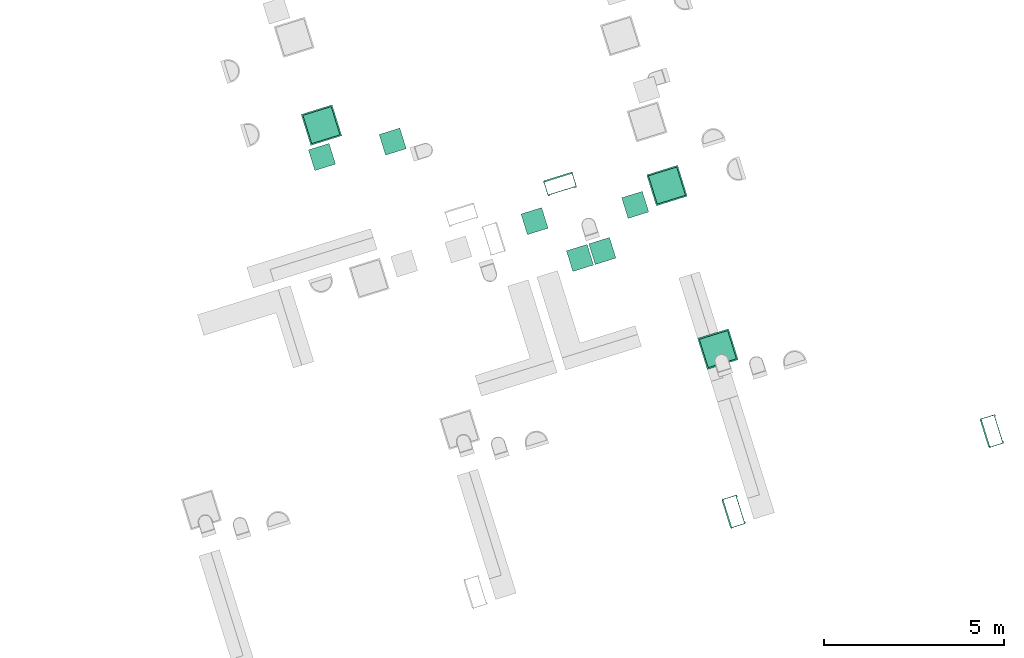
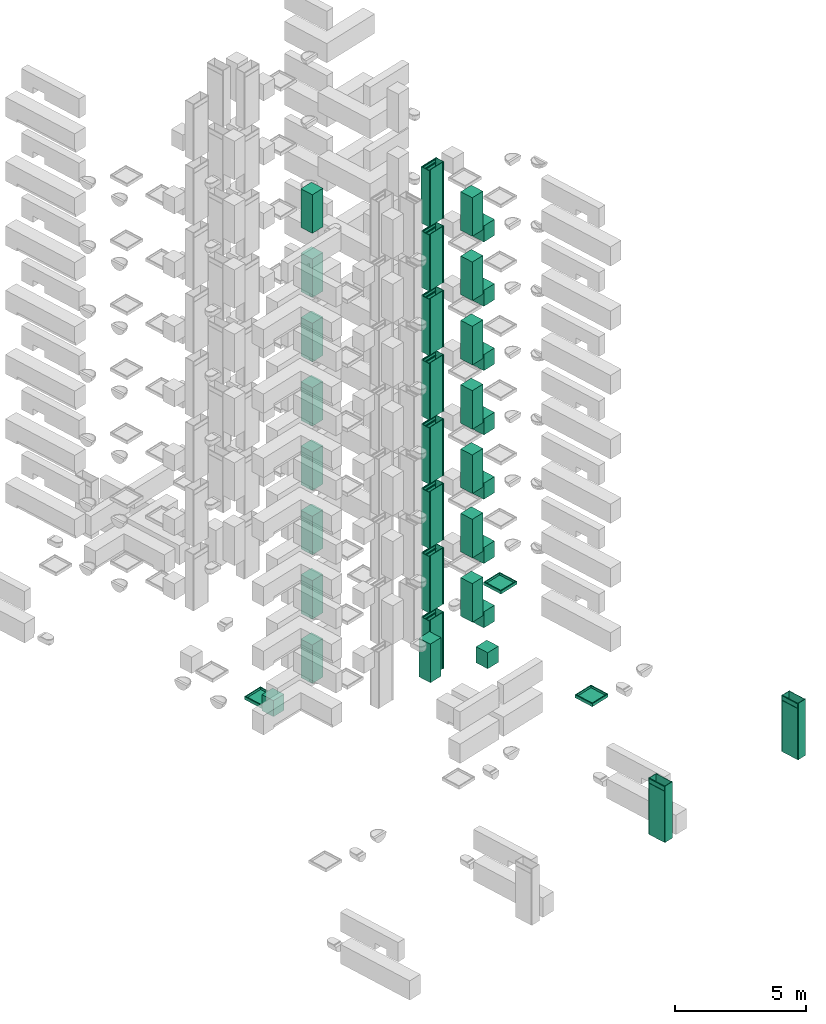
# Not in any storey, part 2 of 20: 16 boilers, 10 distribution chamber elements, 9 electric appliances, 3 sanitary terminals.
"""IFC4 model written with IfcOpenShell, lengths in metres."""

from ifc_helpers import new_model, entity, si_unit, converted_unit, direction, frame, origin, place, context, subcontext, project, indexed_curve, outline, extrude, polygons, source, transform, mapped, material, type_object, type_shapes, element, save


model = new_model("IFC4")

# Units and contexts
model_context = context("Model", 3, precision=1e-05, world=origin(), true_north=direction((6.12323399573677e-17, 1.0)))
body_context = subcontext(model_context, "Body", "Model", "MODEL_VIEW")
ifc_project = project(units=[si_unit("LENGTHUNIT", "METRE"), si_unit("AREAUNIT", "SQUARE_METRE"), si_unit("VOLUMEUNIT", "CUBIC_METRE"), converted_unit("PLANEANGLEUNIT", "DEGREE", entity("IfcPlaneAngleMeasure", 0.0174532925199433), si_unit("PLANEANGLEUNIT", "RADIAN"), dimensions=[0, 0, 0, 0, 0, 0, 0])], contexts=[model_context])

# Distribution chamber elements
ifc_material = material(Name="<Unnamed>")
distribution_chamber_element_type = type_object("IfcDistributionChamberElementType", Name="NLRS_61_GM_UN_Jonka meterkast_gen:Jonka_kast", PredefinedType="METERCHAMBER", material=ifc_material)
shared_shape_1 = source(origin(), body_context, "Body", "SweptSolid", [
    extrude(outline(indexed_curve([(-0.00925000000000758, -0.0230000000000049), (0.0177500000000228, -0.0230000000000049), (0.0177500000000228, 0.0230000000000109), (-0.00925000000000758, 0.0230000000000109), (-0.00925000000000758, 0.00899999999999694), (0.000749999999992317, 0.00899999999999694), (0.000749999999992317, -0.00900000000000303), (-0.00925000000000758, -0.00900000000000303), (-0.00925000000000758, -0.0230000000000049)], self_intersect=False)), frame((-0.408999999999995, -0.409249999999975, 0.0), z_axis=(0.0, 0.0, 1.0), x_axis=(0.0, -1.0, 0.0)), (0.0, 0.0, 1.0), 2.63),
    extrude(outline(indexed_curve([(-0.0092500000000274, -0.0230000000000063), (0.0177500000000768, -0.0230000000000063), (0.0177500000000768, 0.0229999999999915), (-0.00925000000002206, 0.0229999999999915), (-0.00925000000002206, 0.00900000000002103), (0.000749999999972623, 0.00900000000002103), (0.000749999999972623, -0.00900000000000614), (-0.0092500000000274, -0.00900000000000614), (-0.0092500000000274, -0.0230000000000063)], self_intersect=False)), frame((0.409000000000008, -0.409249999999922, 0.0), z_axis=(0.0, 0.0, 1.0), x_axis=(0.0, -1.0, 0.0)), (0.0, 0.0, 1.0), 2.63),
    extrude(outline(indexed_curve([(-0.204999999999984, -0.00899999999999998), (0.204999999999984, -0.00899999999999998), (0.204999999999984, 0.00899999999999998), (-0.204999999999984, 0.00899999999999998), (-0.204999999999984, -0.00899999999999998)], self_intersect=False)), frame((-0.408999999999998, -0.204999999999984, 0.0), z_axis=(0.0, 0.0, 1.0), x_axis=(0.0, -1.0, 0.0)), (0.0, 0.0, 1.0), 2.63),
    extrude(outline(indexed_curve([(-0.204999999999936, -0.00900000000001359), (0.204999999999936, -0.00900000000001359), (0.204999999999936, 0.00900000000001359), (-0.204999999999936, 0.00900000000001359), (-0.204999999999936, -0.00900000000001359)], self_intersect=False)), frame((0.409000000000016, -0.204999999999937, 0.0), z_axis=(0.0, 0.0, 1.0), x_axis=(0.0, -1.0, 0.0)), (0.0, 0.0, 1.0), 2.63),
    extrude(outline(indexed_curve([(-0.399999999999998, -0.00799999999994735), (0.399999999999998, -0.00799999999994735), (0.399999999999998, 0.00799999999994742), (-0.399999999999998, 0.00799999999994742), (-0.399999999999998, -0.00799999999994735)], self_intersect=False)), frame((0.0, -0.434999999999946, 0.00999999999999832), z_axis=(0.0, 0.0, 1.0), x_axis=(-1.0, 0.0, 0.0)), (0.0, 0.0, 1.0), 2.39),
    extrude(outline(indexed_curve([(-0.400000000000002, -0.00899999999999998), (0.400000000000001, -0.00899999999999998), (0.400000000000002, 0.00899999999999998), (-0.400000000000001, 0.00899999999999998), (-0.400000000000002, -0.00899999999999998)], self_intersect=False)), frame((0.0, -0.0280000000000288, 0.0), z_axis=(0.0, 0.0, 1.0), x_axis=(-1.0, 0.0, 0.0)), (0.0, 0.0, 1.0), 2.63),
    extrude(outline(indexed_curve([(-0.023, -0.0095), (0.023, -0.0095), (0.023, 0.0095), (-0.023, 0.0095), (-0.023, -0.0095)], self_intersect=False)), frame((-0.376999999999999, -0.0095, 0.0), z_axis=(0.0, 0.0, 1.0), x_axis=(-1.0, 0.0, 0.0)), (0.0, 0.0, 1.0), 2.63),
    extrude(outline(indexed_curve([(-0.022999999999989, -0.0095), (0.022999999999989, -0.0095), (0.022999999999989, 0.0095), (-0.022999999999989, 0.0095), (-0.022999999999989, -0.0095)], self_intersect=False)), frame((0.377000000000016, -0.00950000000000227, 0.0), z_axis=(0.0, 0.0, 1.0), x_axis=(-1.0, 0.0, 0.0)), (0.0, 0.0, 1.0), 2.63),
    extrude(outline(indexed_curve([(-0.399999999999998, -0.00799999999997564), (0.399999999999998, -0.00799999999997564), (0.399999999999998, 0.00799999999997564), (-0.399999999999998, 0.00799999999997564), (-0.399999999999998, -0.00799999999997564)], self_intersect=False)), frame((0.0, -0.434999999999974, 2.41800000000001), z_axis=(0.0, 0.0, 1.0), x_axis=(-1.0, 0.0, 0.0)), (0.0, 0.0, 1.0), 0.197000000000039),
    extrude(outline(indexed_curve([(-0.0230000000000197, -0.0177500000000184), (0.0230000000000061, -0.0177500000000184), (0.0230000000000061, 0.00925000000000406), (0.00900000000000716, 0.00925000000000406), (0.00900000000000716, -0.00074999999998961), (-0.00899999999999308, -0.00074999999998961), (-0.00899999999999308, 0.00925000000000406), (-0.0230000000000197, 0.00925000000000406), (-0.0230000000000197, -0.0177500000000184)], self_intersect=False)), frame((-0.386, -0.409249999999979, 2.59200000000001), z_axis=(1.0, 0.0, 0.0), x_axis=(0.0, 0.0, -1.0)), (0.0, 0.0, 1.0), 0.772),
    extrude(outline(indexed_curve([(-0.0229999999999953, -0.0177500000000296), (0.0229999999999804, -0.0177500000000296), (0.0229999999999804, 0.00925000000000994), (0.00900000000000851, 0.00925000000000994), (0.00900000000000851, -0.000749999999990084), (-0.00899999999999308, -0.000749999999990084), (-0.00899999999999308, 0.00925000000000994), (-0.0229999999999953, 0.00925000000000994), (-0.0229999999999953, -0.0177500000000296)], self_intersect=False)), frame((-0.386, -0.40924999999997, 2.40900000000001), z_axis=(1.0, 0.0, 0.0), x_axis=(0.0, 0.0, -1.0)), (0.0, 0.0, 1.0), 0.772),
    extrude(outline(indexed_curve([(-0.0230000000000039, -0.0177500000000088), (0.0230000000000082, -0.0177500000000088), (0.0230000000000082, 0.00925000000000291), (0.00899999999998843, 0.00925000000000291), (0.00899999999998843, -0.000749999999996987), (-0.00899999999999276, -0.000749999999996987), (-0.00899999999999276, 0.00925000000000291), (-0.0230000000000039, 0.00925000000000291), (-0.0230000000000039, -0.0177500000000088)], self_intersect=False)), frame((-0.386, -0.409249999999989, 0.0229999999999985), z_axis=(1.0, 0.0, 0.0), x_axis=(0.0, 0.0, -1.0)), (0.0, 0.0, 1.0), 0.772),
])
type_shapes(distribution_chamber_element_type, [shared_shape_1])
placement_1 = place(None, frame((13.1347999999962, 11.9886000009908, 0.0), z_axis=(0.0, 0.0, 1.0), x_axis=(0.954770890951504, 0.297342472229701, 0.0)))
placement_2 = place(placement_1, origin())
placement_3 = place(placement_2, frame((0.0, 0.0, 6.9)))
placement_4 = place(placement_3, origin())
distribution_chamber_element_1_placement = place(placement_4, frame((17.7570000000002, 12.0249999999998, 0.0), z_axis=(0.0, 0.0, 1.0), x_axis=(-1.0, 0.0, 0.0)))
element("IfcDistributionChamberElement", 1, at=distribution_chamber_element_1_placement, type_object=distribution_chamber_element_type, material=ifc_material, Name="NLRS_61_GM_UN_Jonka meterkast_gen:Jonka_kast", ObjectType="NLRS_61_GM_UN_Jonka meterkast_gen:Jonka_kast", PredefinedType="METERCHAMBER", context=body_context, shape_type="MappedRepresentation", body=[
    mapped(shared_shape_1, transform((0.0, 0.0, 0.0), scale=1.0)),
])
placement_5 = place(placement_2, frame((0.0, 0.0, 9.9)))
placement_6 = place(placement_5, origin())
distribution_chamber_element_2_placement = place(placement_6, frame((17.7570000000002, 12.0249999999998, 0.0), z_axis=(0.0, 0.0, 1.0), x_axis=(-1.0, 0.0, 0.0)))
element("IfcDistributionChamberElement", 2, at=distribution_chamber_element_2_placement, type_object=distribution_chamber_element_type, material=ifc_material, Name="NLRS_61_GM_UN_Jonka meterkast_gen:Jonka_kast", ObjectType="NLRS_61_GM_UN_Jonka meterkast_gen:Jonka_kast", PredefinedType="METERCHAMBER", context=body_context, shape_type="MappedRepresentation", body=[
    mapped(shared_shape_1, transform((0.0, 0.0, 0.0), scale=1.0)),
])
placement_7 = place(placement_2, frame((0.0, 0.0, 12.9)))
placement_8 = place(placement_7, origin())
distribution_chamber_element_3_placement = place(placement_8, frame((17.7570000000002, 12.0249999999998, 0.0), z_axis=(0.0, 0.0, 1.0), x_axis=(-1.0, 0.0, 0.0)))
element("IfcDistributionChamberElement", 3, at=distribution_chamber_element_3_placement, type_object=distribution_chamber_element_type, material=ifc_material, Name="NLRS_61_GM_UN_Jonka meterkast_gen:Jonka_kast", ObjectType="NLRS_61_GM_UN_Jonka meterkast_gen:Jonka_kast", PredefinedType="METERCHAMBER", context=body_context, shape_type="MappedRepresentation", body=[
    mapped(shared_shape_1, transform((0.0, 0.0, 0.0), scale=1.0)),
])
placement_9 = place(placement_2, frame((0.0, 0.0, 15.9)))
placement_10 = place(placement_9, origin())
distribution_chamber_element_4_placement = place(placement_10, frame((17.7570000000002, 12.0249999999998, 0.0), z_axis=(0.0, 0.0, 1.0), x_axis=(-1.0, 0.0, 0.0)))
element("IfcDistributionChamberElement", 4, at=distribution_chamber_element_4_placement, type_object=distribution_chamber_element_type, material=ifc_material, Name="NLRS_61_GM_UN_Jonka meterkast_gen:Jonka_kast", ObjectType="NLRS_61_GM_UN_Jonka meterkast_gen:Jonka_kast", PredefinedType="METERCHAMBER", context=body_context, shape_type="MappedRepresentation", body=[
    mapped(shared_shape_1, transform((0.0, 0.0, 0.0), scale=1.0)),
])
placement_11 = place(placement_2, frame((0.0, 0.0, 18.9)))
placement_12 = place(placement_11, origin())
distribution_chamber_element_5_placement = place(placement_12, frame((17.7570000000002, 12.0249999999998, 0.0), z_axis=(0.0, 0.0, 1.0), x_axis=(-1.0, 0.0, 0.0)))
element("IfcDistributionChamberElement", 5, at=distribution_chamber_element_5_placement, type_object=distribution_chamber_element_type, material=ifc_material, Name="NLRS_61_GM_UN_Jonka meterkast_gen:Jonka_kast", ObjectType="NLRS_61_GM_UN_Jonka meterkast_gen:Jonka_kast", PredefinedType="METERCHAMBER", context=body_context, shape_type="MappedRepresentation", body=[
    mapped(shared_shape_1, transform((0.0, 0.0, 0.0), scale=1.0)),
])
placement_13 = place(placement_2, frame((0.0, 0.0, 21.9)))
placement_14 = place(placement_13, origin())
distribution_chamber_element_6_placement = place(placement_14, frame((17.7570000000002, 12.0249999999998, 0.0), z_axis=(0.0, 0.0, 1.0), x_axis=(-1.0, 0.0, 0.0)))
element("IfcDistributionChamberElement", 6, at=distribution_chamber_element_6_placement, type_object=distribution_chamber_element_type, material=ifc_material, Name="NLRS_61_GM_UN_Jonka meterkast_gen:Jonka_kast", ObjectType="NLRS_61_GM_UN_Jonka meterkast_gen:Jonka_kast", PredefinedType="METERCHAMBER", context=body_context, shape_type="MappedRepresentation", body=[
    mapped(shared_shape_1, transform((0.0, 0.0, 0.0), scale=1.0)),
])
placement_15 = place(placement_2, frame((0.0, 0.0, 24.9)))
placement_16 = place(placement_15, origin())
distribution_chamber_element_7_placement = place(placement_16, frame((17.7570000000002, 12.0249999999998, 0.0), z_axis=(0.0, 0.0, 1.0), x_axis=(-1.0, 0.0, 0.0)))
element("IfcDistributionChamberElement", 7, at=distribution_chamber_element_7_placement, type_object=distribution_chamber_element_type, material=ifc_material, Name="NLRS_61_GM_UN_Jonka meterkast_gen:Jonka_kast", ObjectType="NLRS_61_GM_UN_Jonka meterkast_gen:Jonka_kast", PredefinedType="METERCHAMBER", context=body_context, shape_type="MappedRepresentation", body=[
    mapped(shared_shape_1, transform((0.0, 0.0, 0.0), scale=1.0)),
])
placement_17 = place(placement_2, frame((0.0, 0.0, 3.9)))
placement_18 = place(placement_17, origin())
distribution_chamber_element_8_placement = place(placement_18, frame((17.7570000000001, 12.0250000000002, 0.0), z_axis=(0.0, 0.0, 1.0), x_axis=(-1.0, 0.0, 0.0)))
element("IfcDistributionChamberElement", 8, at=distribution_chamber_element_8_placement, type_object=distribution_chamber_element_type, material=ifc_material, Name="NLRS_61_GM_UN_Jonka meterkast_gen:Jonka_kast", ObjectType="NLRS_61_GM_UN_Jonka meterkast_gen:Jonka_kast", PredefinedType="METERCHAMBER", context=body_context, shape_type="MappedRepresentation", body=[
    mapped(shared_shape_1, transform((0.0, 0.0, 0.0), scale=1.0)),
])

# Boilers
boiler_type = type_object("IfcBoilerType", Name="NLRS_51_ME_WB_warmtepomp_gen:generiek", PredefinedType="NOTDEFINED", material=ifc_material)
shared_shape_2 = source(origin(), body_context, "Body", "SweptSolid", [
    extrude(outline(indexed_curve([(-0.299999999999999, -0.300000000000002), (0.299999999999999, -0.300000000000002), (0.299999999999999, 0.300000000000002), (-0.299999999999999, 0.300000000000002), (-0.299999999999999, -0.300000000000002)], self_intersect=False)), frame((0.124999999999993, 0.350000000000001, 0.6), z_axis=(0.0, 0.0, 1.0), x_axis=(-1.0, 0.0, 0.0)), (0.0, 0.0, 1.0), 1.8),
])
type_shapes(boiler_type, [shared_shape_2])
placement_19 = place(placement_3, origin())
boiler_1_placement = place(placement_19, frame((17.8000000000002, 10.4749999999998, 0.0), z_axis=(0.0, 0.0, 1.0), x_axis=(-1.0, 0.0, 0.0)))
element("IfcBoiler", 9, at=boiler_1_placement, type_object=boiler_type, material=ifc_material, Name="NLRS_51_ME_WB_warmtepomp_gen:generiek", ObjectType="NLRS_51_ME_WB_warmtepomp_gen:generiek", PredefinedType="NOTDEFINED", context=body_context, shape_type="MappedRepresentation", body=[
    mapped(shared_shape_2, transform((0.0, 0.0, 0.0), scale=1.0)),
])
placement_20 = place(placement_13, origin())
boiler_2_placement = place(placement_20, frame((17.8000000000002, 10.4749999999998, 0.0), z_axis=(0.0, 0.0, 1.0), x_axis=(-1.0, 0.0, 0.0)))
element("IfcBoiler", 10, at=boiler_2_placement, type_object=boiler_type, material=ifc_material, Name="NLRS_51_ME_WB_warmtepomp_gen:generiek", ObjectType="NLRS_51_ME_WB_warmtepomp_gen:generiek", PredefinedType="NOTDEFINED", context=body_context, shape_type="MappedRepresentation", body=[
    mapped(shared_shape_2, transform((0.0, 0.0, 0.0), scale=1.0)),
])
placement_21 = place(placement_11, origin())
boiler_3_placement = place(placement_21, frame((17.8000000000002, 10.4749999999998, 0.0), z_axis=(0.0, 0.0, 1.0), x_axis=(-1.0, 0.0, 0.0)))
element("IfcBoiler", 11, at=boiler_3_placement, type_object=boiler_type, material=ifc_material, Name="NLRS_51_ME_WB_warmtepomp_gen:generiek", ObjectType="NLRS_51_ME_WB_warmtepomp_gen:generiek", PredefinedType="NOTDEFINED", context=body_context, shape_type="MappedRepresentation", body=[
    mapped(shared_shape_2, transform((0.0, 0.0, 0.0), scale=1.0)),
])
placement_22 = place(placement_9, origin())
boiler_4_placement = place(placement_22, frame((17.8000000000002, 10.4749999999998, 0.0), z_axis=(0.0, 0.0, 1.0), x_axis=(-1.0, 0.0, 0.0)))
element("IfcBoiler", 12, at=boiler_4_placement, type_object=boiler_type, material=ifc_material, Name="NLRS_51_ME_WB_warmtepomp_gen:generiek", ObjectType="NLRS_51_ME_WB_warmtepomp_gen:generiek", PredefinedType="NOTDEFINED", context=body_context, shape_type="MappedRepresentation", body=[
    mapped(shared_shape_2, transform((0.0, 0.0, 0.0), scale=1.0)),
])
placement_23 = place(placement_7, origin())
boiler_5_placement = place(placement_23, frame((17.8000000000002, 10.4749999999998, 0.0), z_axis=(0.0, 0.0, 1.0), x_axis=(-1.0, 0.0, 0.0)))
element("IfcBoiler", 13, at=boiler_5_placement, type_object=boiler_type, material=ifc_material, Name="NLRS_51_ME_WB_warmtepomp_gen:generiek", ObjectType="NLRS_51_ME_WB_warmtepomp_gen:generiek", PredefinedType="NOTDEFINED", context=body_context, shape_type="MappedRepresentation", body=[
    mapped(shared_shape_2, transform((0.0, 0.0, 0.0), scale=1.0)),
])
placement_24 = place(placement_5, origin())
boiler_6_placement = place(placement_24, frame((17.8000000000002, 10.4749999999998, 0.0), z_axis=(0.0, 0.0, 1.0), x_axis=(-1.0, 0.0, 0.0)))
element("IfcBoiler", 14, at=boiler_6_placement, type_object=boiler_type, material=ifc_material, Name="NLRS_51_ME_WB_warmtepomp_gen:generiek", ObjectType="NLRS_51_ME_WB_warmtepomp_gen:generiek", PredefinedType="NOTDEFINED", context=body_context, shape_type="MappedRepresentation", body=[
    mapped(shared_shape_2, transform((0.0, 0.0, 0.0), scale=1.0)),
])
placement_25 = place(placement_15, origin())
boiler_7_placement = place(placement_25, frame((17.8000000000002, 10.4749999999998, 0.0), z_axis=(0.0, 0.0, 1.0), x_axis=(-1.0, 0.0, 0.0)))
element("IfcBoiler", 15, at=boiler_7_placement, type_object=boiler_type, material=ifc_material, Name="NLRS_51_ME_WB_warmtepomp_gen:generiek", ObjectType="NLRS_51_ME_WB_warmtepomp_gen:generiek", PredefinedType="NOTDEFINED", context=body_context, shape_type="MappedRepresentation", body=[
    mapped(shared_shape_2, transform((0.0, 0.0, 0.0), scale=1.0)),
])
placement_26 = place(placement_3, origin())
boiler_8_placement = place(placement_26, frame((14.0250000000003, 14.625, 0.0), z_axis=(0.0, 0.0, 1.0), x_axis=(0.0, 1.0, 0.0)))
element("IfcBoiler", 16, at=boiler_8_placement, type_object=boiler_type, material=ifc_material, Name="NLRS_51_ME_WB_warmtepomp_gen:generiek", ObjectType="NLRS_51_ME_WB_warmtepomp_gen:generiek", PredefinedType="NOTDEFINED", context=body_context, shape_type="MappedRepresentation", body=[
    mapped(shared_shape_2, transform((0.0, 0.0, 0.0), scale=1.0)),
])
placement_27 = place(placement_5, origin())
boiler_9_placement = place(placement_27, frame((14.0250000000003, 14.625, 0.0), z_axis=(0.0, 0.0, 1.0), x_axis=(0.0, 1.0, 0.0)))
element("IfcBoiler", 17, at=boiler_9_placement, type_object=boiler_type, material=ifc_material, Name="NLRS_51_ME_WB_warmtepomp_gen:generiek", ObjectType="NLRS_51_ME_WB_warmtepomp_gen:generiek", PredefinedType="NOTDEFINED", context=body_context, shape_type="MappedRepresentation", body=[
    mapped(shared_shape_2, transform((0.0, 0.0, 0.0), scale=1.0)),
])
placement_28 = place(placement_7, origin())
boiler_10_placement = place(placement_28, frame((14.0250000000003, 14.625, 0.0), z_axis=(0.0, 0.0, 1.0), x_axis=(0.0, 1.0, 0.0)))
element("IfcBoiler", 18, at=boiler_10_placement, type_object=boiler_type, material=ifc_material, Name="NLRS_51_ME_WB_warmtepomp_gen:generiek", ObjectType="NLRS_51_ME_WB_warmtepomp_gen:generiek", PredefinedType="NOTDEFINED", context=body_context, shape_type="MappedRepresentation", body=[
    mapped(shared_shape_2, transform((0.0, 0.0, 0.0), scale=1.0)),
])
placement_29 = place(placement_9, origin())
boiler_11_placement = place(placement_29, frame((14.0250000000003, 14.625, 0.0), z_axis=(0.0, 0.0, 1.0), x_axis=(0.0, 1.0, 0.0)))
element("IfcBoiler", 19, at=boiler_11_placement, type_object=boiler_type, material=ifc_material, Name="NLRS_51_ME_WB_warmtepomp_gen:generiek", ObjectType="NLRS_51_ME_WB_warmtepomp_gen:generiek", PredefinedType="NOTDEFINED", context=body_context, shape_type="MappedRepresentation", body=[
    mapped(shared_shape_2, transform((0.0, 0.0, 0.0), scale=1.0)),
])
placement_30 = place(placement_11, origin())
boiler_12_placement = place(placement_30, frame((14.0250000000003, 14.625, 0.0), z_axis=(0.0, 0.0, 1.0), x_axis=(0.0, 1.0, 0.0)))
element("IfcBoiler", 20, at=boiler_12_placement, type_object=boiler_type, material=ifc_material, Name="NLRS_51_ME_WB_warmtepomp_gen:generiek", ObjectType="NLRS_51_ME_WB_warmtepomp_gen:generiek", PredefinedType="NOTDEFINED", context=body_context, shape_type="MappedRepresentation", body=[
    mapped(shared_shape_2, transform((0.0, 0.0, 0.0), scale=1.0)),
])
placement_31 = place(placement_13, origin())
boiler_13_placement = place(placement_31, frame((14.0250000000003, 14.625, 0.0), z_axis=(0.0, 0.0, 1.0), x_axis=(0.0, 1.0, 0.0)))
element("IfcBoiler", 21, at=boiler_13_placement, type_object=boiler_type, material=ifc_material, Name="NLRS_51_ME_WB_warmtepomp_gen:generiek", ObjectType="NLRS_51_ME_WB_warmtepomp_gen:generiek", PredefinedType="NOTDEFINED", context=body_context, shape_type="MappedRepresentation", body=[
    mapped(shared_shape_2, transform((0.0, 0.0, 0.0), scale=1.0)),
])
placement_32 = place(placement_15, origin())
boiler_14_placement = place(placement_32, frame((14.0250000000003, 14.625, 0.0), z_axis=(0.0, 0.0, 1.0), x_axis=(0.0, 1.0, 0.0)))
element("IfcBoiler", 22, at=boiler_14_placement, type_object=boiler_type, material=ifc_material, Name="NLRS_51_ME_WB_warmtepomp_gen:generiek", ObjectType="NLRS_51_ME_WB_warmtepomp_gen:generiek", PredefinedType="NOTDEFINED", context=body_context, shape_type="MappedRepresentation", body=[
    mapped(shared_shape_2, transform((0.0, 0.0, 0.0), scale=1.0)),
])
placement_33 = place(placement_17, origin())
boiler_15_placement = place(placement_33, frame((14.0250000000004, 14.6249999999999, 0.0), z_axis=(0.0, 0.0, 1.0), x_axis=(0.0, 1.0, 0.0)))
element("IfcBoiler", 23, at=boiler_15_placement, type_object=boiler_type, material=ifc_material, Name="NLRS_51_ME_WB_warmtepomp_gen:generiek", ObjectType="NLRS_51_ME_WB_warmtepomp_gen:generiek", PredefinedType="NOTDEFINED", context=body_context, shape_type="MappedRepresentation", body=[
    mapped(shared_shape_2, transform((0.0, 0.0, 0.0), scale=1.0)),
])

# Electric appliance
electric_appliance_type = type_object("IfcElectricApplianceType", Name="NLRS_85_SE_UN_opstelplaats wasmachine_gen:wasdroger", PredefinedType="TUMBLEDRYER", material=ifc_material)
shared_shape_3 = source(origin(), body_context, "Body", "SweptSolid", [
    extrude(outline(indexed_curve([(-0.299999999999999, -0.3), (0.299999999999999, -0.3), (0.299999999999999, 0.3), (-0.299999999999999, 0.3), (-0.299999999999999, -0.3)], self_intersect=False)), frame((0.0, 0.349999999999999, 0.0), z_axis=(0.0, 0.0, 1.0), x_axis=(0.0, 1.0, 0.0)), (0.0, 0.0, 1.0), 0.75026866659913),
])
type_shapes(electric_appliance_type, [shared_shape_3])
placement_34 = place(placement_17, origin())
electric_appliance_1_placement = place(placement_34, frame((19.5750000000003, 10.725, 0.0)))
element("IfcElectricAppliance", 24, at=electric_appliance_1_placement, type_object=electric_appliance_type, material=ifc_material, Name="NLRS_85_SE_UN_opstelplaats wasmachine_gen:wasdroger", ObjectType="NLRS_85_SE_UN_opstelplaats wasmachine_gen:wasdroger", PredefinedType="TUMBLEDRYER", context=body_context, shape_type="MappedRepresentation", body=[
    mapped(shared_shape_3, transform((0.0, 0.0, 0.0), scale=1.0)),
])

# Sanitary terminals
sanitary_terminal_type = type_object("IfcSanitaryTerminalType", Name="NLRS_74_PF_UN_douche_gen:douchebak 900x900mm", PredefinedType="NOTDEFINED", material=ifc_material)
shared_shape_4 = source(origin(), body_context, "Body", "Tessellation", [
    polygons([(1.65924045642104, 0.403499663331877, -9.76), (0.759240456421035, 0.403499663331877, -9.76), (0.759240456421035, -0.496500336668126, -9.76), (1.65924045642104, -0.496500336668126, -9.76), (0.799240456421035, 0.36349966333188, -9.76), (1.61924045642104, 0.36349966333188, -9.76), (1.61924045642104, -0.456500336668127, -9.76), (0.799240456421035, -0.456500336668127, -9.76), (1.65924045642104, 0.403499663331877, -9.9), (1.65924045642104, -0.496500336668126, -9.9), (0.759240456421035, -0.496500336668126, -9.9), (0.759240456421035, 0.403499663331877, -9.9), (1.61924045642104, 0.36349966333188, -9.86), (0.799240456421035, 0.36349966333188, -9.86), (0.799240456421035, -0.456500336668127, -9.86), (1.61924045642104, -0.456500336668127, -9.86)], [[[1, 2, 3, 4], [5, 6, 7, 8]], [[9, 10, 11, 12]], [[2, 1, 9, 12]], [[3, 2, 12, 11]], [[4, 3, 11, 10]], [[1, 4, 10, 9]], [[13, 14, 15, 16]], [[14, 13, 6, 5]], [[15, 14, 5, 8]], [[16, 15, 8, 7]], [[13, 16, 7, 6]]], closed=True),
])
type_shapes(sanitary_terminal_type, [shared_shape_4])
placement_35 = place(placement_3, origin())
sanitary_terminal_1_placement = place(placement_35, frame((21.7842404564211, 11.2784996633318, 9.9), z_axis=(0.0, 0.0, 1.0), x_axis=(-1.0, 0.0, 0.0)))
element("IfcSanitaryTerminal", 25, at=sanitary_terminal_1_placement, type_object=sanitary_terminal_type, material=ifc_material, Name="NLRS_74_PF_UN_douche_gen:douchebak 900x900mm", ObjectType="NLRS_74_PF_UN_douche_gen:douchebak 900x900mm", PredefinedType="NOTDEFINED", context=body_context, shape_type="MappedRepresentation", body=[
    mapped(shared_shape_4, transform((0.0, 0.0, 0.0), scale=1.0)),
])
placement_36 = place(placement_17, origin())
sanitary_terminal_2_placement = place(placement_36, frame((10.7157595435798, 15.8215003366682, 9.9)))
element("IfcSanitaryTerminal", 26, at=sanitary_terminal_2_placement, type_object=sanitary_terminal_type, material=ifc_material, Name="NLRS_74_PF_UN_douche_gen:douchebak 900x900mm", ObjectType="NLRS_74_PF_UN_douche_gen:douchebak 900x900mm", PredefinedType="NOTDEFINED", context=body_context, shape_type="MappedRepresentation", body=[
    mapped(shared_shape_4, transform((0.0, 0.0, 0.0), scale=1.0)),
])
shared_shape_5 = source(origin(), body_context, "Body", "Tessellation", [
    polygons([(1.65924045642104, -0.403499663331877, -3.76), (1.65924045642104, 0.496500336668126, -3.76), (0.759240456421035, 0.496500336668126, -3.76), (0.759240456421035, -0.403499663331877, -3.76), (0.799240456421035, -0.36349966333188, -3.76), (0.799240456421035, 0.456500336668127, -3.76), (1.61924045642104, 0.456500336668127, -3.76), (1.61924045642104, -0.36349966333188, -3.76), (1.65924045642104, -0.403499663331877, -3.9), (0.759240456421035, -0.403499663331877, -3.9), (0.759240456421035, 0.496500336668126, -3.9), (1.65924045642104, 0.496500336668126, -3.9), (1.61924045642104, -0.36349966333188, -3.86), (1.61924045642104, 0.456500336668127, -3.86), (0.799240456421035, 0.456500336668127, -3.86), (0.799240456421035, -0.36349966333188, -3.86)], [[[1, 2, 3, 4], [5, 6, 7, 8]], [[9, 10, 11, 12]], [[4, 10, 9, 1]], [[3, 11, 10, 4]], [[2, 12, 11, 3]], [[1, 9, 12, 2]], [[13, 14, 15, 16]], [[16, 5, 8, 13]], [[15, 6, 5, 16]], [[14, 7, 6, 15]], [[13, 8, 7, 14]]], closed=True),
])
placement_37 = place(placement_17, origin())
sanitary_terminal_3_placement = place(placement_37, frame((20.5284996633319, 7.78424045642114, 3.9), z_axis=(0.0, 0.0, 1.0), x_axis=(0.0, -1.0, 0.0)))
element("IfcSanitaryTerminal", 27, at=sanitary_terminal_3_placement, type_object=sanitary_terminal_type, material=ifc_material, Name="NLRS_74_PF_UN_douche_gen:douchebak 900x900mm", ObjectType="NLRS_74_PF_UN_douche_gen:douchebak 900x900mm", PredefinedType="NOTDEFINED", context=body_context, shape_type="MappedRepresentation", body=[
    mapped(shared_shape_5, transform((0.0, 0.0, 0.0), scale=1.0)),
])

# Distribution chamber elements
shared_shape_6 = source(origin(), body_context, "Body", "SweptSolid", [
    extrude(outline(indexed_curve([(-0.0230000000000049, -0.00925000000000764), (-0.00900000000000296, -0.00925000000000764), (-0.00900000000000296, 0.000749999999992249), (0.00899999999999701, 0.000749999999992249), (0.00899999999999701, -0.00925000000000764), (0.023000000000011, -0.00925000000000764), (0.023000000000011, 0.0177500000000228), (-0.0230000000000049, 0.0177500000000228), (-0.0230000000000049, -0.00925000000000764)], self_intersect=False)), frame((-0.408999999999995, 0.409249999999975, 0.0)), (0.0, 0.0, 1.0), 2.63),
    extrude(outline(indexed_curve([(-0.0230000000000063, -0.00925000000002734), (-0.00900000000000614, -0.00925000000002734), (-0.00900000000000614, 0.00074999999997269), (0.00900000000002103, 0.00074999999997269), (0.00900000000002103, -0.00925000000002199), (0.0229999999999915, -0.00925000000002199), (0.0229999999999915, 0.0177500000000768), (-0.0230000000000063, 0.0177500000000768), (-0.0230000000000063, -0.00925000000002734)], self_intersect=False)), frame((0.409000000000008, 0.409249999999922, 0.0)), (0.0, 0.0, 1.0), 2.63),
    extrude(outline(indexed_curve([(-0.00899999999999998, -0.204999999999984), (0.00899999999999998, -0.204999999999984), (0.00899999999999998, 0.204999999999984), (-0.00899999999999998, 0.204999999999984), (-0.00899999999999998, -0.204999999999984)], self_intersect=False)), frame((-0.408999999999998, 0.204999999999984, 0.0)), (0.0, 0.0, 1.0), 2.63),
    extrude(outline(indexed_curve([(-0.00900000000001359, -0.204999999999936), (0.00900000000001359, -0.204999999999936), (0.00900000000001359, 0.204999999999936), (-0.00900000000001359, 0.204999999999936), (-0.00900000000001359, -0.204999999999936)], self_intersect=False)), frame((0.409000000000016, 0.204999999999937, 0.0)), (0.0, 0.0, 1.0), 2.63),
    extrude(outline(indexed_curve([(-0.00799999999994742, -0.399999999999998), (0.00799999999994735, -0.399999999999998), (0.00799999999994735, 0.399999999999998), (-0.00799999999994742, 0.399999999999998), (-0.00799999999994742, -0.399999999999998)], self_intersect=False)), frame((0.0, 0.434999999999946, 0.00999999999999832), z_axis=(0.0, 0.0, 1.0), x_axis=(0.0, 1.0, 0.0)), (0.0, 0.0, 1.0), 2.39),
    extrude(outline(indexed_curve([(-0.0090000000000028, -0.400000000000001), (0.00899999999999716, -0.400000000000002), (0.0090000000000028, 0.400000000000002), (-0.00899999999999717, 0.400000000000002), (-0.0090000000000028, -0.400000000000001)], self_intersect=False)), frame((0.0, 0.0280000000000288, 0.0), z_axis=(0.0, 0.0, 1.0), x_axis=(0.0, 1.0, 0.0)), (0.0, 0.0, 1.0), 2.63),
    extrude(outline(indexed_curve([(-0.0095, -0.023), (0.0095, -0.023), (0.0095, 0.023), (-0.0095, 0.023), (-0.0095, -0.023)], self_intersect=False)), frame((-0.376999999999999, 0.0095, 0.0), z_axis=(0.0, 0.0, 1.0), x_axis=(0.0, 1.0, 0.0)), (0.0, 0.0, 1.0), 2.63),
    extrude(outline(indexed_curve([(-0.0095, -0.022999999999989), (0.0095, -0.022999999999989), (0.0095, 0.022999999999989), (-0.0095, 0.022999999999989), (-0.0095, -0.022999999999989)], self_intersect=False)), frame((0.377000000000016, 0.00950000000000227, 0.0), z_axis=(0.0, 0.0, 1.0), x_axis=(0.0, 1.0, 0.0)), (0.0, 0.0, 1.0), 2.63),
    extrude(outline(indexed_curve([(-0.00799999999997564, -0.399999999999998), (0.00799999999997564, -0.399999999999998), (0.00799999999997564, 0.399999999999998), (-0.00799999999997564, 0.399999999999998), (-0.00799999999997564, -0.399999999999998)], self_intersect=False)), frame((0.0, 0.434999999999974, 2.41800000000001), z_axis=(0.0, 0.0, 1.0), x_axis=(0.0, 1.0, 0.0)), (0.0, 0.0, 1.0), 0.197000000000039),
    extrude(outline(indexed_curve([(-0.0177500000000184, -0.0230000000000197), (0.00925000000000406, -0.0230000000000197), (0.00925000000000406, -0.00899999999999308), (-0.00074999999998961, -0.00899999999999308), (-0.00074999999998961, 0.00900000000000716), (0.00925000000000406, 0.00900000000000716), (0.00925000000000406, 0.0230000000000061), (-0.0177500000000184, 0.0230000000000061), (-0.0177500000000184, -0.0230000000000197)], self_intersect=False)), frame((-0.386, 0.409249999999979, 2.59200000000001), z_axis=(1.0, 0.0, 0.0), x_axis=(0.0, -1.0, 0.0)), (0.0, 0.0, 1.0), 0.772),
    extrude(outline(indexed_curve([(-0.0177500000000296, -0.0229999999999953), (0.00925000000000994, -0.0229999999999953), (0.00925000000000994, -0.00899999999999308), (-0.000749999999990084, -0.00899999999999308), (-0.000749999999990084, 0.00900000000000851), (0.00925000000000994, 0.00900000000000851), (0.00925000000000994, 0.0229999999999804), (-0.0177500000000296, 0.0229999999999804), (-0.0177500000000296, -0.0229999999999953)], self_intersect=False)), frame((-0.386, 0.40924999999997, 2.40900000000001), z_axis=(1.0, 0.0, 0.0), x_axis=(0.0, -1.0, 0.0)), (0.0, 0.0, 1.0), 0.772),
    extrude(outline(indexed_curve([(-0.0177500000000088, -0.0230000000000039), (0.00925000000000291, -0.0230000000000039), (0.00925000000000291, -0.00899999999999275), (-0.000749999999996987, -0.00899999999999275), (-0.000749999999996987, 0.00899999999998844), (0.00925000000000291, 0.00899999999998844), (0.00925000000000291, 0.0230000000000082), (-0.0177500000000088, 0.0230000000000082), (-0.0177500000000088, -0.0230000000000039)], self_intersect=False)), frame((-0.386, 0.409249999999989, 0.0229999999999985), z_axis=(1.0, 0.0, 0.0), x_axis=(0.0, -1.0, 0.0)), (0.0, 0.0, 1.0), 0.772),
])
placement_38 = place(placement_2, origin())
placement_39 = place(placement_38, origin())
distribution_chamber_element_9_placement = place(placement_39, frame((19.8750000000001, 2.14299999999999, 0.0), z_axis=(0.0, 0.0, 1.0), x_axis=(0.0, 1.0, 0.0)))
element("IfcDistributionChamberElement", 28, at=distribution_chamber_element_9_placement, type_object=distribution_chamber_element_type, material=ifc_material, Name="NLRS_61_GM_UN_Jonka meterkast_gen:Jonka_kast", ObjectType="NLRS_61_GM_UN_Jonka meterkast_gen:Jonka_kast", PredefinedType="METERCHAMBER", context=body_context, shape_type="MappedRepresentation", body=[
    mapped(shared_shape_6, transform((0.0, 0.0, 0.0), scale=1.0)),
])
placement_40 = place(placement_38, origin())
distribution_chamber_element_10_placement = place(placement_40, frame((27.375, 2.14299999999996, 0.0), z_axis=(0.0, 0.0, 1.0), x_axis=(0.0, 1.0, 0.0)))
element("IfcDistributionChamberElement", 29, at=distribution_chamber_element_10_placement, type_object=distribution_chamber_element_type, material=ifc_material, Name="NLRS_61_GM_UN_Jonka meterkast_gen:Jonka_kast", ObjectType="NLRS_61_GM_UN_Jonka meterkast_gen:Jonka_kast", PredefinedType="METERCHAMBER", context=body_context, shape_type="MappedRepresentation", body=[
    mapped(shared_shape_6, transform((0.0, 0.0, 0.0), scale=1.0)),
])

# Electric appliances
shared_shape_7 = source(origin(), body_context, "Body", "SweptSolid", [
    extrude(outline(indexed_curve([(-0.3, -0.299999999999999), (0.3, -0.299999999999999), (0.3, 0.299999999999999), (-0.3, 0.299999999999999), (-0.3, -0.299999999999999)], self_intersect=False)), frame((0.0, -0.349999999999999, 0.0), z_axis=(0.0, 0.0, 1.0), x_axis=(-1.0, 0.0, 0.0)), (0.0, 0.0, 1.0), 0.75026866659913),
])
electric_appliance_2_placement = place(placement_19, frame((18.3250000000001, 10.4749999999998, 0.0)))
element("IfcElectricAppliance", 30, at=electric_appliance_2_placement, type_object=electric_appliance_type, material=ifc_material, Name="NLRS_85_SE_UN_opstelplaats wasmachine_gen:wasdroger", ObjectType="NLRS_85_SE_UN_opstelplaats wasmachine_gen:wasdroger", PredefinedType="TUMBLEDRYER", context=body_context, shape_type="MappedRepresentation", body=[
    mapped(shared_shape_7, transform((0.0, 0.0, 0.0), scale=1.0)),
])
electric_appliance_3_placement = place(placement_24, frame((18.3250000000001, 10.4749999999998, 0.0)))
element("IfcElectricAppliance", 31, at=electric_appliance_3_placement, type_object=electric_appliance_type, material=ifc_material, Name="NLRS_85_SE_UN_opstelplaats wasmachine_gen:wasdroger", ObjectType="NLRS_85_SE_UN_opstelplaats wasmachine_gen:wasdroger", PredefinedType="TUMBLEDRYER", context=body_context, shape_type="MappedRepresentation", body=[
    mapped(shared_shape_7, transform((0.0, 0.0, 0.0), scale=1.0)),
])
electric_appliance_4_placement = place(placement_23, frame((18.3250000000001, 10.4749999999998, 0.0)))
element("IfcElectricAppliance", 32, at=electric_appliance_4_placement, type_object=electric_appliance_type, material=ifc_material, Name="NLRS_85_SE_UN_opstelplaats wasmachine_gen:wasdroger", ObjectType="NLRS_85_SE_UN_opstelplaats wasmachine_gen:wasdroger", PredefinedType="TUMBLEDRYER", context=body_context, shape_type="MappedRepresentation", body=[
    mapped(shared_shape_7, transform((0.0, 0.0, 0.0), scale=1.0)),
])
electric_appliance_5_placement = place(placement_22, frame((18.3250000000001, 10.4749999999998, 0.0)))
element("IfcElectricAppliance", 33, at=electric_appliance_5_placement, type_object=electric_appliance_type, material=ifc_material, Name="NLRS_85_SE_UN_opstelplaats wasmachine_gen:wasdroger", ObjectType="NLRS_85_SE_UN_opstelplaats wasmachine_gen:wasdroger", PredefinedType="TUMBLEDRYER", context=body_context, shape_type="MappedRepresentation", body=[
    mapped(shared_shape_7, transform((0.0, 0.0, 0.0), scale=1.0)),
])
electric_appliance_6_placement = place(placement_21, frame((18.3250000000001, 10.4749999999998, 0.0)))
element("IfcElectricAppliance", 34, at=electric_appliance_6_placement, type_object=electric_appliance_type, material=ifc_material, Name="NLRS_85_SE_UN_opstelplaats wasmachine_gen:wasdroger", ObjectType="NLRS_85_SE_UN_opstelplaats wasmachine_gen:wasdroger", PredefinedType="TUMBLEDRYER", context=body_context, shape_type="MappedRepresentation", body=[
    mapped(shared_shape_7, transform((0.0, 0.0, 0.0), scale=1.0)),
])
electric_appliance_7_placement = place(placement_20, frame((18.3250000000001, 10.4749999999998, 0.0)))
element("IfcElectricAppliance", 35, at=electric_appliance_7_placement, type_object=electric_appliance_type, material=ifc_material, Name="NLRS_85_SE_UN_opstelplaats wasmachine_gen:wasdroger", ObjectType="NLRS_85_SE_UN_opstelplaats wasmachine_gen:wasdroger", PredefinedType="TUMBLEDRYER", context=body_context, shape_type="MappedRepresentation", body=[
    mapped(shared_shape_7, transform((0.0, 0.0, 0.0), scale=1.0)),
])
electric_appliance_8_placement = place(placement_25, frame((18.3250000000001, 10.4749999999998, 0.0)))
element("IfcElectricAppliance", 36, at=electric_appliance_8_placement, type_object=electric_appliance_type, material=ifc_material, Name="NLRS_85_SE_UN_opstelplaats wasmachine_gen:wasdroger", ObjectType="NLRS_85_SE_UN_opstelplaats wasmachine_gen:wasdroger", PredefinedType="TUMBLEDRYER", context=body_context, shape_type="MappedRepresentation", body=[
    mapped(shared_shape_7, transform((0.0, 0.0, 0.0), scale=1.0)),
])
placement_41 = place(placement_17, origin())
electric_appliance_9_placement = place(placement_41, frame((11.6750000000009, 14.5750000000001, 0.0), z_axis=(0.0, 0.0, 1.0), x_axis=(-1.0, 0.0, 0.0)))
element("IfcElectricAppliance", 37, at=electric_appliance_9_placement, type_object=electric_appliance_type, material=ifc_material, Name="NLRS_85_SE_UN_opstelplaats wasmachine_gen:wasdroger", ObjectType="NLRS_85_SE_UN_opstelplaats wasmachine_gen:wasdroger", PredefinedType="TUMBLEDRYER", context=body_context, shape_type="MappedRepresentation", body=[
    mapped(shared_shape_7, transform((0.0, 0.0, 0.0), scale=1.0)),
])

# Boiler
shared_shape_8 = source(origin(), body_context, "Body", "SweptSolid", [
    extrude(outline(indexed_curve([(-0.299999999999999, -0.300000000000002), (0.299999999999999, -0.300000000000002), (0.299999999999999, 0.300000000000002), (-0.299999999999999, 0.300000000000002), (-0.299999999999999, -0.300000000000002)], self_intersect=False)), frame((0.124999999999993, 0.425000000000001, 0.6), z_axis=(0.0, 0.0, 1.0), x_axis=(-1.0, 0.0, 0.0)), (0.0, 0.0, 1.0), 1.8),
])
boiler_16_placement = place(placement_34, frame((16.9000000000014, 11.9, 0.0), z_axis=(0.0, 0.0, 1.0), x_axis=(-1.0, 0.0, 0.0)))
element("IfcBoiler", 38, at=boiler_16_placement, type_object=boiler_type, material=ifc_material, Name="NLRS_51_ME_WB_warmtepomp_gen:generiek", ObjectType="NLRS_51_ME_WB_warmtepomp_gen:generiek", PredefinedType="NOTDEFINED", context=body_context, shape_type="MappedRepresentation", body=[
    mapped(shared_shape_8, transform((0.0, 0.0, 0.0), scale=1.0)),
])

save(model, "model.ifc")
